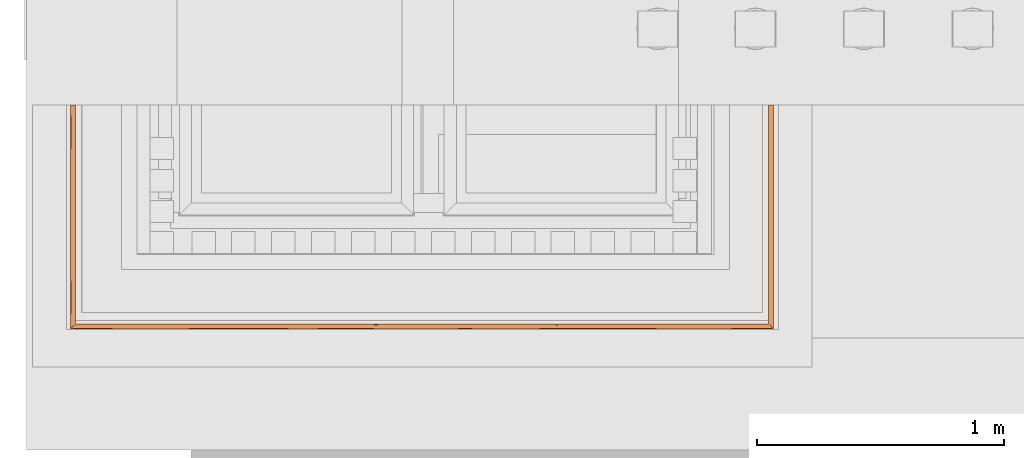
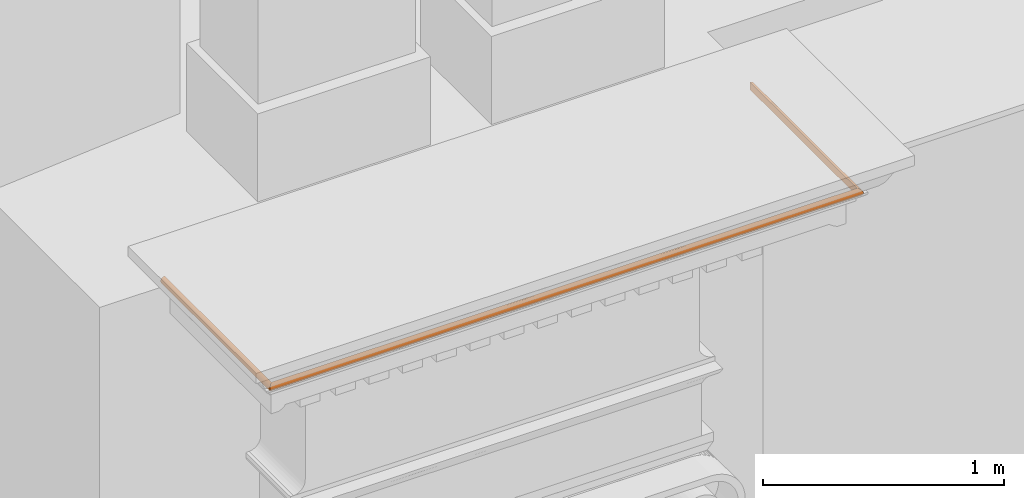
# One storey, part 23 of 44: 1 proxy.
"""IFC2X3 building model written with IfcOpenShell, lengths in metres."""

import ifcopenshell
import ifcopenshell.guid

model = None  # the IFC model being written
_history = None  # IfcOwnerHistory: only IFC2X3 demands one
_inside = {}  # id of a spatial element -> (the spatial element, [elements in it])
_under = {}  # id of a project, library or spatial element -> (it, [spatial elements below it])
_declared = {}  # id of a project -> (the project, [libraries it declares])
_typed = {}  # id of a type object -> (the type object, [elements of that type])
_made_of = {}  # id of a material, layer set ... -> (it, [elements and type objects made of it])


def new_model(schema):
    """Start an empty IFC model of exactly this schema.

    Asked for "IFC4X3", IfcOpenShell would pick the latest addendum, in which some entities
    have other attributes; the version numbers below select the first issue.
    IFC2X3 requires an IfcOwnerHistory on every rooted entity: one is made here for all.
    """
    global model, _history
    if schema == "IFC4X3":
        model = ifcopenshell.file(schema_version=(4, 3, 0, 0))
    else:
        model = ifcopenshell.file(schema=schema)
    _inside.clear()
    _under.clear()
    _declared.clear()
    _typed.clear()
    _made_of.clear()
    _history = None
    if model.schema == "IFC2X3":
        org = make("IfcOrganization", Name="unknown")
        user = make(
            "IfcPersonAndOrganization",
            ThePerson=make("IfcPerson", FamilyName="unknown"),
            TheOrganization=org,
        )
        app = make(
            "IfcApplication",
            ApplicationDeveloper=org,
            Version="unknown",
            ApplicationFullName="unknown",
            ApplicationIdentifier="unknown",
        )
        _history = make(
            "IfcOwnerHistory",
            OwningUser=user,
            OwningApplication=app,
            ChangeAction="ADDED",
            CreationDate=0,
        )
    return model


def make(cls, **values):
    """One entity of the class cls with the attributes given. An attribute that is None is left unset."""
    return model.create_entity(
        cls, **{name: value for name, value in values.items() if value is not None}
    )


def entity(cls, *values):
    """Any entity or typed value of the class cls, its attributes in the order of the schema. None: left unset."""
    e = model.create_entity(cls)
    for i, value in enumerate(values):
        if value is not None:
            e[i] = value
    return e


def rooted(cls, **values):
    """An entity with a GlobalId (a new one), such as an element, a storey or a relation."""
    return make(cls, GlobalId=ifcopenshell.guid.new(), OwnerHistory=_history, **values)


def si_unit(unit_type, name, prefix=None):
    """IfcSIUnit, for example si_unit("LENGTHUNIT", "METRE", prefix="MILLI")."""
    return make("IfcSIUnit", UnitType=unit_type, Prefix=prefix, Name=name)


def converted_unit(unit_type, name, factor, base, dimensions=None, offset=None):
    """IfcConversionBasedUnit, such as the inch: factor (a typed value) times the base unit."""
    return make(
        "IfcConversionBasedUnit"
        if offset is None
        else "IfcConversionBasedUnitWithOffset",
        ConversionOffset=offset,
        Dimensions=None
        if dimensions is None
        else entity("IfcDimensionalExponents", *dimensions),
        UnitType=unit_type,
        Name=name,
        ConversionFactor=make(
            "IfcMeasureWithUnit", ValueComponent=factor, UnitComponent=base
        ),
    )


def derived_unit(unit_type, elements):
    """IfcDerivedUnit: a product of units, each with its exponent."""
    return make(
        "IfcDerivedUnit",
        Elements=[
            make("IfcDerivedUnitElement", Unit=unit, Exponent=power)
            for unit, power in elements
        ],
        UnitType=unit_type,
    )


def assignment(units):
    """IfcUnitAssignment: the units of a project."""
    return None if units is None else make("IfcUnitAssignment", Units=units)


def point(xyz):
    """IfcCartesianPoint."""
    return None if xyz is None else make("IfcCartesianPoint", Coordinates=xyz)


def direction(xyz):
    """IfcDirection."""
    return None if xyz is None else make("IfcDirection", DirectionRatios=xyz)


def frame(location, z_axis=None, x_axis=None):
    """IfcAxis2Placement3D, a coordinate frame: its origin and axes. An axis left out is left unset."""
    return make(
        "IfcAxis2Placement3D",
        Location=point(location),
        Axis=direction(z_axis),
        RefDirection=direction(x_axis),
    )


def origin():
    """The frame at (0, 0, 0) with its axes left unset."""
    return frame((0.0, 0.0, 0.0))


def place(relative_to, where):
    """IfcLocalPlacement: puts the frame where relative to a parent placement (None: the world)."""
    return make(
        "IfcLocalPlacement", PlacementRelTo=relative_to, RelativePlacement=where
    )


def context(
    kind, dimensions, precision=None, world=None, true_north=None, identifier=None
):
    """IfcGeometricRepresentationContext, for example the 3D "Model" context."""
    return make(
        "IfcGeometricRepresentationContext",
        ContextIdentifier=identifier,
        ContextType=kind,
        CoordinateSpaceDimension=dimensions,
        Precision=precision,
        WorldCoordinateSystem=world,
        TrueNorth=true_north,
    )


def subcontext(parent, identifier, kind, view, scale=None):
    """IfcGeometricRepresentationSubContext, for example "Body" below "Model"."""
    return make(
        "IfcGeometricRepresentationSubContext",
        ContextIdentifier=identifier,
        ContextType=kind,
        ParentContext=parent,
        TargetScale=scale,
        TargetView=view,
    )


def project(units=None, contexts=None):
    """IfcProject with its units and contexts."""
    return rooted(
        "IfcProject",
        Name="project",
        RepresentationContexts=contexts,
        UnitsInContext=assignment(units),
    )


def spatial(cls, under=None, at=None, **own):
    """A site, building, storey or space (cls), placed at a placement, below another one or the project."""
    s = rooted(cls, ObjectPlacement=at, **own)
    if under is not None:
        _under.setdefault(under.id(), (under, []))[1].append(s)
    return s


def faces_of(points, faces, orient=None, outer=None):
    """IfcFace entities. A face is a list of loops; a loop is a list of indices into points, from 0.

    orient and outer hold one flag for each loop. By default every Orientation is true, the
    first loop of a face is its IfcFaceOuterBound and the others are IfcFaceBound.
    """
    made = []
    for i, loops in enumerate(faces):
        bounds = []
        for j, loop in enumerate(loops):
            is_outer = j == 0 if outer is None else outer[i][j]
            bounds.append(
                make(
                    "IfcFaceOuterBound" if is_outer else "IfcFaceBound",
                    Bound=make("IfcPolyLoop", Polygon=[points[k] for k in loop]),
                    Orientation=True if orient is None else orient[i][j],
                )
            )
        made.append(make("IfcFace", Bounds=bounds))
    return made


def faceted_brep(points, faces, orient=None, outer=None, voids=None):
    """IfcFacetedBrep: a solid bounded by flat faces; with voids (closed shells), ...WithVoids."""
    shared = [point(p) for p in points]
    hull = make("IfcClosedShell", CfsFaces=faces_of(shared, faces, orient, outer))
    if voids is None:
        return make("IfcFacetedBrep", Outer=hull)
    return make(
        "IfcFacetedBrepWithVoids",
        Outer=hull,
        Voids=[
            make(cls, CfsFaces=faces_of(shared, fs, o, b)) for cls, fs, o, b in voids
        ],
    )


def shape(context_of_items, identifier, shape_type, items):
    """IfcShapeRepresentation: the items that make up one representation, for example the "Body"."""
    return make(
        "IfcShapeRepresentation",
        ContextOfItems=context_of_items,
        RepresentationIdentifier=identifier,
        RepresentationType=shape_type,
        Items=items,
    )


def material(Name=None, Category=None):
    """IfcMaterial."""
    return make("IfcMaterial", Name=Name, Category=Category)


def made_of(thing, what):
    """Note that an element or type object is made of a material, layer set ...; save() writes the relation."""
    if what is not None:
        _made_of.setdefault(what.id(), (what, []))[1].append(thing)
    return thing


def element(
    cls,
    number,
    at=None,
    inside=None,
    cuts=None,
    type_object=None,
    material=None,
    context=None,
    identifier="Body",
    shape_type=None,
    held_by="IfcProductDefinitionShape",
    body=None,
    shapes=None,
    **own,
):
    """One element of the class cls, such as IfcWall. Its Tag is "e" and its number.

    at: its placement. inside: the storey or other place that contains it. cuts: it is an
    opening in that element (IfcRelVoidsElement). A single representation is given by context,
    identifier, shape_type and body (its items); several are given by shapes. held_by: the class
    of the entity that holds the representations. save() writes the other relations.
    """
    e = rooted(cls, Tag="e%d" % number, ObjectPlacement=at, **own)
    if body is not None:
        shapes = [shape(context, identifier, shape_type, body)]
    if shapes is not None:
        e.Representation = make(held_by, Representations=shapes)
    if inside is not None:
        _inside.setdefault(inside.id(), (inside, []))[1].append(e)
    if cuts is not None:
        rooted(
            "IfcRelVoidsElement", RelatingBuildingElement=cuts, RelatedOpeningElement=e
        )
    if type_object is not None:
        _typed.setdefault(type_object.id(), (type_object, []))[1].append(e)
    return made_of(e, material)


def aggregate(whole, parts):
    """IfcRelAggregates: a whole, such as a stair, and the parts it consists of."""
    return rooted("IfcRelAggregates", RelatingObject=whole, RelatedObjects=parts)


def save(model, path):
    """Write the relations noted so far, then the file.

    IfcRelAggregates (storeys below a building ...), IfcRelContainedInSpatialStructure (elements
    in a storey), IfcRelDefinesByType, IfcRelAssociatesMaterial and IfcRelDeclares: one each for
    every whole, place, type object, material and project.
    """
    for whole, parts in _under.values():
        aggregate(whole, parts)
    for where, things in _inside.values():
        rooted(
            "IfcRelContainedInSpatialStructure",
            RelatedElements=things,
            RelatingStructure=where,
        )
    for kind, things in _typed.values():
        rooted("IfcRelDefinesByType", RelatedObjects=things, RelatingType=kind)
    for what, things in _made_of.values():
        rooted("IfcRelAssociatesMaterial", RelatedObjects=things, RelatingMaterial=what)
    for by, libraries in _declared.values():
        rooted("IfcRelDeclares", RelatingContext=by, RelatedDefinitions=libraries)
    model.write(path)


model = new_model("IFC2X3")

# Units and contexts
model_context = context("Model", 3, precision=1e-05, world=origin(), true_north=direction((6.12303176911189e-17, 1.0)))
body_context = subcontext(model_context, "Body", "Model", "MODEL_VIEW")
ifc_project = project(units=[si_unit("LENGTHUNIT", "METRE"), si_unit("AREAUNIT", "SQUARE_METRE"), si_unit("VOLUMEUNIT", "CUBIC_METRE"), converted_unit("PLANEANGLEUNIT", "DEGREE", entity("IfcRatioMeasure", 0.0174532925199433), si_unit("PLANEANGLEUNIT", "RADIAN"), dimensions=[0, 0, 0, 0, 0, 0, 0]), si_unit("MASSUNIT", "GRAM", prefix="KILO"), derived_unit("MASSDENSITYUNIT", [(si_unit("MASSUNIT", "GRAM", prefix="KILO"), 1), (si_unit("LENGTHUNIT", "METRE"), -3)]), si_unit("TIMEUNIT", "SECOND"), si_unit("FREQUENCYUNIT", "HERTZ"), si_unit("THERMODYNAMICTEMPERATUREUNIT", "DEGREE_CELSIUS"), derived_unit("THERMALTRANSMITTANCEUNIT", [(si_unit("MASSUNIT", "GRAM", prefix="KILO"), 1), (si_unit("THERMODYNAMICTEMPERATUREUNIT", "KELVIN"), -1), (si_unit("TIMEUNIT", "SECOND"), -3)]), derived_unit("VOLUMETRICFLOWRATEUNIT", [(si_unit("LENGTHUNIT", "METRE"), 3), (si_unit("TIMEUNIT", "SECOND"), -1)]), si_unit("ELECTRICCURRENTUNIT", "AMPERE"), si_unit("ELECTRICVOLTAGEUNIT", "VOLT"), si_unit("POWERUNIT", "WATT"), si_unit("FORCEUNIT", "NEWTON", prefix="KILO"), si_unit("ILLUMINANCEUNIT", "LUX"), si_unit("LUMINOUSFLUXUNIT", "LUMEN"), si_unit("LUMINOUSINTENSITYUNIT", "CANDELA"), derived_unit("USERDEFINED", [(si_unit("MASSUNIT", "GRAM", prefix="KILO"), -1), (si_unit("LENGTHUNIT", "METRE"), -2), (si_unit("TIMEUNIT", "SECOND"), 3), (si_unit("LUMINOUSFLUXUNIT", "LUMEN"), 1)]), derived_unit("LINEARVELOCITYUNIT", [(si_unit("LENGTHUNIT", "METRE"), 1), (si_unit("TIMEUNIT", "SECOND"), -1)]), si_unit("PRESSUREUNIT", "PASCAL"), derived_unit("USERDEFINED", [(si_unit("LENGTHUNIT", "METRE"), -2), (si_unit("MASSUNIT", "GRAM", prefix="KILO"), 1), (si_unit("TIMEUNIT", "SECOND"), -2)])], contexts=[model_context])

# Site, building, storey
site_placement = place(None, origin())
site = spatial("IfcSite", under=ifc_project, at=site_placement, Name="Default", CompositionType="ELEMENT")
building_placement = place(site_placement, origin())
building = spatial("IfcBuilding", under=site, at=building_placement, CompositionType="ELEMENT")
storey_placement = place(building_placement, origin())
storey = spatial("IfcBuildingStorey", under=building, at=storey_placement, Name="Livello 1", CompositionType="ELEMENT", Elevation=0.0)

# Proxy
ifc_material = material(Name="Piperno")
proxy_placement = place(storey_placement, frame((-11.9444697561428, 0.355124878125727, 23.0438415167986)))
element("IfcBuildingElementProxy", 1, at=proxy_placement, inside=storey, material=ifc_material, Name="Stratigrafia", context=body_context, shape_type="Brep", body=[
    faceted_brep([(2.84335871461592, 0.908247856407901, 0.0315863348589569), (2.84565631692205, 0.908247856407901, 0.0274250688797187), (2.84684265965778, 0.908247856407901, 0.0228220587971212), (2.84684265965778, 0.908247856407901, 0.0180686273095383), (2.84565631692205, 0.908247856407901, 0.0134656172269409), (2.84335871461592, 0.908247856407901, 0.0093043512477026), (2.84009526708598, 0.908247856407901, 0.00584819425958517), (2.83607251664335, 0.908247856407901, 0.00331588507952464), (2.83154506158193, 0.908247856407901, 0.00186769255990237), (2.8267994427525, 0.908247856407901, 0.0015952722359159), (2.8267994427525, 0.908247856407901, 0.0392954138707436), (2.83154506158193, 0.908247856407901, 0.0390229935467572), (2.83607251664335, 0.908247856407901, 0.0375748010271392), (2.84009526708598, 0.908247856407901, 0.0350424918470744), (0.00278161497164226, 0.908247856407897, 0.0274250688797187), (0.00507921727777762, 0.908247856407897, 0.0315863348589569), (0.00834266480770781, 0.908247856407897, 0.0350424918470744), (0.0123654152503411, 0.908247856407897, 0.0375748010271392), (0.0168928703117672, 0.908247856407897, 0.0390229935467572), (0.0216384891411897, 0.908247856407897, 0.0392954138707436), (0.0216384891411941, 0.908247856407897, 0.0015952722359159), (0.0168928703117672, 0.908247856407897, 0.00186769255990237), (0.0123654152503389, 0.908247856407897, 0.00331588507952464), (0.00834266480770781, 0.908247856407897, 0.00584819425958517), (0.00507921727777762, 0.908247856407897, 0.0093043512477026), (0.0027816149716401, 0.908247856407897, 0.0134656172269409), (0.0015952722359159, 0.908247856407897, 0.0180686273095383), (0.0015952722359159, 0.908247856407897, 0.0228220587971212), (2.83822898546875, 0.214377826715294, 0.0363944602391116), (2.83607251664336, 0.0123654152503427, 0.0375748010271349), (2.84009526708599, 0.00834266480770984, 0.0350424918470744), (2.84129866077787, 0.458798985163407, 0.0339639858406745), (2.84183610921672, 0.644526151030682, 0.0334174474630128), (2.83816384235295, 0.467085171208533, 0.0364356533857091), (2.8267994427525, 0.604692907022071, 0.0015952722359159), (2.83054907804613, 0.530011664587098, 0.00171025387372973), (2.83001274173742, 0.366464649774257, 0.00164786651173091), (2.84335871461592, 0.00507921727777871, 0.0315863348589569), (2.84189219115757, 0.27386888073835, 0.0333577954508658), (2.84640221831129, 0.26925326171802, 0.025132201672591), (2.84466010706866, 0.207742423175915, 0.0295397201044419), (2.84565631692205, 0.00278161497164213, 0.0274250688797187), (2.83396197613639, 0.280257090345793, 0.0384071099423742), (2.84503240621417, 0.455215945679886, 0.0120645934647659), (2.84640733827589, 0.454921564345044, 0.0157785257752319), (2.8446667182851, 0.271444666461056, 0.0113630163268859), (2.84335871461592, 0.00507921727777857, 0.00930435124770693), (2.84009526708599, 0.0083426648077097, 0.00584819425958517), (2.84187896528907, 0.210753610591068, 0.00751877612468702), (2.83154506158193, 0.0168928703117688, 0.0018676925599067), (2.83031173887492, 0.201549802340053, 0.00168072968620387), (2.83396214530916, 0.280675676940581, 0.00248363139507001), (2.84684265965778, 0.00159527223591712, 0.0228220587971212), (2.84699273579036, 0.205349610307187, 0.0204453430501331), (2.8267994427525, 0.021638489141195, 0.0392954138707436), (2.83154506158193, 0.0168928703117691, 0.0390229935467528), (2.83030951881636, 0.201466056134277, 0.039210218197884), (2.8267994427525, 0.301137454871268, 0.0392954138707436), (2.83063053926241, 0.452914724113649, 0.0391695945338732), (2.84565631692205, 0.00278161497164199, 0.0134656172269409), (2.84183610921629, 0.702798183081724, 0.0074732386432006), (2.83816384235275, 0.712887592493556, 0.00445503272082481), (2.83607251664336, 0.012365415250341, 0.00331588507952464), (2.83816384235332, 0.704220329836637, 0.0364356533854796), (2.8338545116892, 0.644526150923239, 0.0384418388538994), (2.84699273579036, 0.712887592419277, 0.0204453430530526), (2.84639481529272, 0.702798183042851, 0.0157296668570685), (2.84463889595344, 0.704220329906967, 0.0295782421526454), (2.84639481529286, 0.642111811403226, 0.0251610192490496), (2.84468577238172, 0.45551473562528, 0.0294928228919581), (2.84640020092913, 0.196313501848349, 0.0157506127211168), (2.84684265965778, 0.00159527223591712, 0.0180686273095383), (2.84696382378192, 0.456343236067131, 0.0214902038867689), (2.84621722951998, 0.455561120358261, 0.0258030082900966), (2.83830664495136, 0.458295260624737, 0.00454582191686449), (2.84254895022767, 0.453619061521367, 0.00827237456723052), (2.83822596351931, 0.204901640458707, 0.00449430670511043), (2.8267994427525, 0.301137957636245, 0.0015952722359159), (2.8267994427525, 0.0216384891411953, 0.0015952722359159), (2.83391422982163, 0.458791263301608, 0.00246805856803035), (2.83016512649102, 0.721817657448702, 0.00166401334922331), (2.83385451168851, 0.636898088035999, 0.00244884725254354), (2.84463889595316, 0.638410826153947, 0.0113124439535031), (2.8267994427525, 0.604692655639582, 0.0392954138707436), (2.83012292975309, 0.723306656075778, 0.0392312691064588), (2.83464434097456, 0.462931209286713, 0.0381698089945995), (2.63756957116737, 0.0102100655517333, 0.00449551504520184), (2.57476271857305, 0.0144786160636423, 0.00248270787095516), (0.0015952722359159, 0.0015952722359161, 0.0228220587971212), (0.145231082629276, 0.0014451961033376, 0.0204453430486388), (0.222629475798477, 0.00203700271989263, 0.0251372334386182), (0.0216384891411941, 0.0216384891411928, 0.0392954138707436), (0.0168928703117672, 0.0168928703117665, 0.0390229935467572), (0.203583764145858, 0.0183182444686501, 0.0392316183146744), (2.64900331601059, 0.00377868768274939, 0.0295412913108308), (2.62580845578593, 0.00203700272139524, 0.0251372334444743), (2.38227488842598, 0.00192473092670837, 0.0246751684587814), (2.52067139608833, 0.00144519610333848, 0.0204453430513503), (0.609781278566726, 0.00689255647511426, 0.00717209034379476), (0.443456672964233, 0.01013600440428, 0.00454279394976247), (0.733282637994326, 0.0106616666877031, 0.00421751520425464), (0.466163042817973, 0.00192473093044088, 0.0162155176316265), (0.32776653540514, 0.00144519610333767, 0.0204453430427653), (0.222629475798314, 0.00203700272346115, 0.0157534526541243), (0.0015952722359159, 0.00159527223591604, 0.0180686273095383), (0.775211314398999, 0.00278265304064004, 0.0134630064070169), (0.690017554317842, 0.00182479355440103, 0.0166769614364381), (0.595093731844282, 0.0027395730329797, 0.0135723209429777), (0.403758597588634, 0.0176730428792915, 0.0391509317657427), (0.628749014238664, 0.0216384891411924, 0.0392954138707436), (0.325193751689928, 0.0216384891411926, 0.0392954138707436), (0.00278161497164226, 0.00278161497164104, 0.0274250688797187), (0.00507921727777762, 0.00507921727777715, 0.0315863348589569), (0.199434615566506, 0.00377868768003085, 0.0295412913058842), (0.265342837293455, 0.00654752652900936, 0.0333597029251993), (0.00834266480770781, 0.00834266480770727, 0.0350424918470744), (2.23865665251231, 0.00689255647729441, 0.0337185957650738), (2.40498125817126, 0.0101360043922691, 0.0363478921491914), (2.11515529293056, 0.0106616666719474, 0.0366731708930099), (0.199434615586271, 0.00377868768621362, 0.0113493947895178), (0.00278161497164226, 0.00278161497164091, 0.0134656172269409), (0.496645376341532, 0.00650199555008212, 0.0333109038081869), (0.44085518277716, 0.0101368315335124, 0.0363484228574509), (2.57372725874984, 0.0144781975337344, 0.0384078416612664), (2.64467049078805, 0.0183129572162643, 0.0392310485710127), (2.4440037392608, 0.0176991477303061, 0.0391546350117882), (0.775425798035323, 0.0174017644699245, 0.0391102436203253), (0.573603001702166, 0.0153889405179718, 0.0386798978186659), (1.79990849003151, 0.00150446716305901, 0.0219407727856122), (1.64269787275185, 0.00163670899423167, 0.0177619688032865), (1.91098158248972, 0.00182272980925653, 0.0166871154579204), (1.64512055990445, 0.0171037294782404, 0.0390608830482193), (1.46941676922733, 0.0165294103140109, 0.0389518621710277), (1.54037072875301, 0.0132319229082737, 0.0379521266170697), (0.210868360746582, 0.0102100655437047, 0.0363951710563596), (0.0123654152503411, 0.012365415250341, 0.0375748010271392), (0.273675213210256, 0.0144786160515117, 0.0384079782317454), (2.40758274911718, 0.0101368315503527, 0.00454226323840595), (2.58309509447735, 0.00654752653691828, 0.00753098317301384), (2.35179255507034, 0.00650199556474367, 0.00757978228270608), (2.63618031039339, 0.0102096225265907, 0.0363948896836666), (0.434319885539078, 0.00375434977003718, 0.0294968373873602), (0.467738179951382, 0.00192823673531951, 0.0246904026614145), (0.735975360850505, 0.00298732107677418, 0.0279218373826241), (0.955175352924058, 0.00181743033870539, 0.024177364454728), (1.02942023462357, 0.00151455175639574, 0.018827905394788), (1.21402024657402, 0.00162121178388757, 0.0230183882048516), (0.212257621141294, 0.0102096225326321, 0.00449579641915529), (0.274710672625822, 0.0144781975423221, 0.00248284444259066), (0.203767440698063, 0.0183129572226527, 0.00165963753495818), (0.404434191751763, 0.0176991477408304, 0.00173605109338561), (2.64900331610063, 0.00377868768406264, 0.0113493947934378), (2.70320684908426, 0.00144519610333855, 0.0204453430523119), (2.62580845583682, 0.00203700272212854, 0.0157534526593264), (0.84171011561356, 0.00152507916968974, 0.018709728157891), (1.27400284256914, 0.0115043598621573, 0.00374372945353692), (1.08408246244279, 0.0134028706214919, 0.00287012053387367), (1.28353331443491, 0.0164668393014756, 0.00195181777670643), (2.19232649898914, 0.00186933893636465, 0.0244263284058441), (2.17559801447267, 0.00144519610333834, 0.0204453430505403), (2.34813470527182, 0.00145578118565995, 0.0210777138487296), (2.58182587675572, 0.00654726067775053, 0.0333594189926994), (0.266612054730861, 0.00654726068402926, 0.00753126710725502), (0.00834266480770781, 0.00834266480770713, 0.00584819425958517), (0.00507921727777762, 0.00507921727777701, 0.0093043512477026), (1.12066304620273, 0.021638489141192, 0.0392954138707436), (0.997684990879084, 0.0179973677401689, 0.0391943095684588), (1.29179829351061, 0.0163362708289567, 0.0389110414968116), (1.15027194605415, 0.00293084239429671, 0.0277893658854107), (1.35466625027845, 0.00474557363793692, 0.0311143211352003), (1.10025454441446, 0.00598031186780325, 0.0327259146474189), (2.52324418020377, 0.0216384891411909, 0.0392954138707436), (1.72777085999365, 0.0216384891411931, 0.0015952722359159), (1.8507529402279, 0.0179973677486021, 0.00169637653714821), (1.55663963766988, 0.0163362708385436, 0.00197964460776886), (0.949636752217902, 0.00210012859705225, 0.0155137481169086), (0.0123654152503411, 0.0123654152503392, 0.00331588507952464), (2.07322661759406, 0.00278265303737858, 0.0274276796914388), (2.24590271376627, 0.00291481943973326, 0.0277512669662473), (2.07301213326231, 0.0174017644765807, 0.00178044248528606), (2.21968705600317, 0.0216384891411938, 0.0015952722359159), (2.27483493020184, 0.0153889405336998, 0.00221078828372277), (2.44467933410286, 0.017673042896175, 0.00173975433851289), (2.5232410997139, 0.0216384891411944, 0.0015952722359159), (2.64485416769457, 0.0183182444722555, 0.00165906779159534), (2.41411804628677, 0.00375434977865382, 0.0113938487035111), (2.38069975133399, 0.00192823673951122, 0.0162002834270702), (2.11246257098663, 0.00298732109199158, 0.012968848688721), (2.27437678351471, 0.0153976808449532, 0.0386822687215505), (0.0168928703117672, 0.0168928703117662, 0.00186769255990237), (0.574061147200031, 0.0153976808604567, 0.00220841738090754), (0.0216384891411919, 0.0216384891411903, 0.0015952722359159), (0.325192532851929, 0.0216384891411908, 0.00159527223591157), (2.40632271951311, 0.00590995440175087, 0.0326431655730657), (2.39334385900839, 0.00375220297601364, 0.0294929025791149), (0.442115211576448, 0.00590995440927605, 0.00824752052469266), (0.455094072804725, 0.0037522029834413, 0.0113977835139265), (2.21968826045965, 0.0216384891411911, 0.0392954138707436), (0.628750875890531, 0.0216384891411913, 0.0015952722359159), (0.660247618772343, 0.00725728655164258, 0.0340782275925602), (0.997684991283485, 0.0136581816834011, 0.0381192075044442), (0.944791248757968, 0.00391137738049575, 0.0297788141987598), (1.39366594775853, 0.00734109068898, 0.0341581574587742), (1.59298093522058, 0.00724537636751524, 0.0340667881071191), (1.52384505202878, 0.00969429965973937, 0.0360556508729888), (2.18819031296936, 0.00725728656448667, 0.00681245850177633), (1.85075294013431, 0.0136581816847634, 0.00277147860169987), (1.42153819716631, 0.0021795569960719, 0.015228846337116), (1.42421896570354, 0.00144519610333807, 0.0204453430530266), (1.23550369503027, 0.00152685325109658, 0.0186906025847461), (1.19280459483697, 0.00728233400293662, 0.00678846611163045), (1.08074890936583, 0.0098312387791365, 0.00474252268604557), (1.91613299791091, 0.0216384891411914, 0.0392954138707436), (2.00993849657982, 0.0153707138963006, 0.0386749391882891), (1.83603718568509, 0.0169994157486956, 0.0390424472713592), (1.61257773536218, 0.0216384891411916, 0.0392954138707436), (1.89203566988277, 0.0103600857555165, 0.0364894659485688), (1.76435546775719, 0.0134028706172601, 0.0380205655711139), (1.9822695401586, 0.0064223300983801, 0.0332246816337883), (0.932304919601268, 0.0216384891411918, 0.0015952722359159), (0.838499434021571, 0.0153707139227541, 0.0022157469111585), (1.07201888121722, 0.0179604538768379, 0.00170102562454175), (1.23585896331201, 0.0216384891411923, 0.0015952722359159), (0.917061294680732, 0.0116210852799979, 0.00368249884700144), (0.866168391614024, 0.00642233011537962, 0.00766600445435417), (0.720189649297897, 0.0107250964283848, 0.0367108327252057), (0.938275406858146, 0.0095507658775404, 0.0359567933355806), (0.874706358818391, 0.0216384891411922, 0.0392954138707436), (1.91016252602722, 0.00955076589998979, 0.00493389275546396), (2.12824828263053, 0.0107250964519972, 0.0041798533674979), (1.97372680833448, 0.0216384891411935, 0.0015952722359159), (0.679736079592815, 0.00445375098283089, 0.0102159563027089), (0.500303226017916, 0.00145578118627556, 0.0198129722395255), (1.12770429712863, 0.00206977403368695, 0.0156274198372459), (0.989754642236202, 0.00339597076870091, 0.0120839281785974), (1.21505934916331, 0.00322240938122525, 0.0124452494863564), (1.1150262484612, 0.00491615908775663, 0.00953120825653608), (1.28622775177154, 0.0052369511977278, 0.0090914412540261), (1.44429130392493, 0.00438724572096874, 0.0103199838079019), (1.69091020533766, 0.00681204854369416, 0.00725415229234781), (1.66941425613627, 0.00315255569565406, 0.0125964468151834), (1.38840431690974, 0.00244126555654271, 0.0264991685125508), (1.59998179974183, 0.00348248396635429, 0.0289798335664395), (0.82223981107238, 0.00643143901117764, 0.0332345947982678), (1.89218413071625, 0.00332368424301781, 0.0122320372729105), (1.99026631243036, 0.00170928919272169, 0.0235933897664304), (1.79258400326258, 0.00735012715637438, 0.0341667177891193), (1.80049937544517, 0.00463251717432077, 0.0309471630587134), (0.657662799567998, 0.0048981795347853, 0.0313340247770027), (0.657707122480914, 0.00187018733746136, 0.0244302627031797), (0.672839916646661, 0.0014451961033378, 0.0204453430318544), (2.14266022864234, 0.00459318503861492, 0.0308880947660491), (1.79409940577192, 0.00249269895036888, 0.0266491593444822), (1.59634544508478, 0.00184958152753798, 0.0243335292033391), (2.0261981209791, 0.00643143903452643, 0.00765609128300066), (2.19077513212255, 0.00489817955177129, 0.00955666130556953), (2.19073080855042, 0.00187018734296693, 0.0164604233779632), (1.94627393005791, 0.0014473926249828, 0.0201572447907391), (1.68707490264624, 0.0100573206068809, 0.0362971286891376), (0.731073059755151, 0.0140043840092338, 0.0382462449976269), (2.117364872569, 0.0140043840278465, 0.00264444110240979), (1.14808094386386, 0.0106407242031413, 0.036660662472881), (1.36662065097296, 0.0105567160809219, 0.0366101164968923), (1.36662039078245, 0.0216384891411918, 0.0392954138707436), (1.70035698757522, 0.0106407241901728, 0.00423002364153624), (1.48181727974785, 0.0105567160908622, 0.00428056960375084), (1.48181491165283, 0.0216384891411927, 0.0015952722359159), (1.64459732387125, 0.00145781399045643, 0.0211357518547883), (1.97116033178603, 0.00412934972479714, 0.0301524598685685), (1.44230818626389, 0.00715102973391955, 0.0069152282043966), (1.02953721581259, 0.00684097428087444, 0.00722455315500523), (1.85158289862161, 0.00539159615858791, 0.00888859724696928), (0.00204311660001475, 0.703138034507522, 0.0251610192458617), (0.0144751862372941, 0.282161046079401, 0.0384068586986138), (0.0181182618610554, 0.201848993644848, 0.0392090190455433), (0.0178758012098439, 0.410799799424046, 0.0391787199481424), (0.0066018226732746, 0.646390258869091, 0.0334174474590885), (0.0037990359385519, 0.712904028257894, 0.0295782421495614), (0.00416344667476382, 0.458183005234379, 0.0106815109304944), (0.0020431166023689, 0.455514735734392, 0.0157296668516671), (0.00379903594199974, 0.646374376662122, 0.0113124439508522), (0.0102740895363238, 0.704638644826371, 0.036435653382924), (0.0102740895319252, 0.471731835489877, 0.0364356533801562), (0.0145834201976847, 0.646390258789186, 0.0384418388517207), (0.00655901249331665, 0.210534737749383, 0.00751872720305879), (0.00660182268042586, 0.471692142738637, 0.00747323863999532), (0.0101880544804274, 0.279921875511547, 0.00450951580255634), (0.00654612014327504, 0.2720573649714, 0.0333582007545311), (0.00610145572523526, 0.459565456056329, 0.0328661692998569), (0.0037990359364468, 0.456663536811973, 0.0295782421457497), (0.00204311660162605, 0.704635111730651, 0.0157296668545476), (0.0014451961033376, 0.63984346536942, 0.0204453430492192), (0.0216384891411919, 0.301136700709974, 0.0392954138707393), (0.0183249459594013, 0.723657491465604, 0.0392323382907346), (0.00660182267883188, 0.708474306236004, 0.00747323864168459), (0.0102740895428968, 0.665513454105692, 0.00445503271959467), (0.010209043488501, 0.214073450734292, 0.0363945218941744), (0.0183675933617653, 0.192450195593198, 0.00165382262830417), (0.00203773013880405, 0.196343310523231, 0.0157506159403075), (0.00377785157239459, 0.20748488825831, 0.0295397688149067), (0.00203563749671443, 0.272006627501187, 0.0251319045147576), (0.0145004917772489, 0.219564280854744, 0.00247558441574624), (0.0145834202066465, 0.731058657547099, 0.00244884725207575), (0.0181702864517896, 0.68058129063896, 0.00167558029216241), (0.0145834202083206, 0.521096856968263, 0.00244884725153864), (0.0014451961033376, 0.206002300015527, 0.0204453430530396), (0.0021899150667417, 0.469458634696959, 0.025697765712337), (0.00148461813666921, 0.422922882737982, 0.0216652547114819), (0.0109090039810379, 0.472250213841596, 0.00407253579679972), (0.00377131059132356, 0.270509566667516, 0.0113628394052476), (0.0174616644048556, 0.569310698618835, 0.0391195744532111), (0.0142862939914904, 0.464454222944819, 0.0383440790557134), (0.0216384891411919, 0.756464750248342, 0.0015952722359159), (0.0184370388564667, 0.49241986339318, 0.00164666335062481), (0.0216384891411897, 0.604693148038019, 0.0015952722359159), (0.0216384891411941, 0.30113843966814, 0.0015952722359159), (0.0216384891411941, 0.604692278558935, 0.0392954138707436)], [[[0, 1, 2, 3, 4, 5, 6, 7, 8, 9, 10, 11, 12, 13]], [[14, 15, 16, 17, 18, 19, 20, 21, 22, 23, 24, 25, 26, 27]], [[28, 29, 30]], [[31, 32, 33]], [[34, 35, 36]], [[30, 37, 38]], [[39, 40, 41]], [[33, 42, 28]], [[40, 37, 41]], [[43, 44, 45]], [[32, 0, 13]], [[46, 47, 48]], [[49, 50, 51]], [[39, 52, 53]], [[54, 55, 56]], [[57, 56, 58]], [[41, 52, 39]], [[55, 29, 42]], [[59, 46, 45]], [[60, 61, 6]], [[62, 49, 51]], [[63, 13, 12]], [[63, 12, 64]], [[65, 66, 3]], [[67, 0, 32]], [[0, 67, 1]], [[68, 2, 1]], [[67, 69, 68]], [[70, 53, 71]], [[39, 53, 72]], [[69, 73, 68]], [[48, 74, 75]], [[76, 48, 47]], [[53, 52, 71]], [[77, 50, 78]], [[51, 36, 79]], [[80, 8, 81]], [[60, 82, 75]], [[44, 65, 72]], [[81, 8, 7]], [[66, 82, 4]], [[66, 4, 3]], [[11, 64, 12]], [[70, 44, 53]], [[32, 63, 33]], [[4, 82, 5]], [[35, 34, 80]], [[7, 6, 61]], [[8, 80, 9]], [[10, 83, 84]], [[74, 48, 76]], [[29, 28, 42]], [[5, 60, 6]], [[40, 69, 38]], [[31, 69, 32]], [[5, 82, 60]], [[85, 33, 64]], [[56, 55, 42]], [[11, 84, 64]], [[58, 83, 57]], [[3, 2, 65]], [[44, 82, 66]], [[82, 43, 75]], [[61, 74, 81]], [[48, 45, 46]], [[74, 60, 75]], [[69, 40, 39]], [[38, 37, 40]], [[71, 59, 70]], [[72, 68, 73]], [[53, 44, 72]], [[65, 44, 66]], [[62, 76, 47]], [[75, 45, 48]], [[69, 67, 32]], [[68, 1, 67]], [[30, 38, 28]], [[28, 38, 31]], [[33, 63, 64]], [[32, 13, 63]], [[2, 68, 65]], [[72, 65, 68]], [[74, 61, 60]], [[81, 7, 61]], [[59, 45, 70]], [[44, 70, 45]], [[62, 51, 76]], [[74, 76, 51]], [[35, 80, 81]], [[9, 80, 34]], [[79, 35, 81]], [[51, 50, 36]], [[81, 74, 79]], [[74, 51, 79]], [[69, 39, 73]], [[72, 73, 39]], [[75, 43, 45]], [[82, 44, 43]], [[78, 50, 49]], [[36, 50, 77]], [[34, 36, 77]], [[36, 35, 79]], [[28, 31, 33]], [[69, 31, 38]], [[85, 58, 42]], [[84, 58, 64]], [[58, 56, 42]], [[54, 56, 57]], [[10, 84, 11]], [[58, 84, 83]], [[58, 85, 64]], [[42, 33, 85]], [[9, 34, 77, 78, 54, 57, 83, 10]], [[62, 86, 87]], [[88, 89, 90]], [[91, 92, 93]], [[86, 62, 47]], [[41, 94, 95]], [[96, 97, 95]], [[98, 99, 100]], [[101, 102, 103]], [[88, 104, 89]], [[105, 106, 107]], [[108, 109, 110]], [[111, 88, 90]], [[112, 111, 113]], [[114, 115, 112]], [[116, 117, 118]], [[119, 103, 120]], [[114, 121, 122]], [[123, 124, 125]], [[126, 109, 127]], [[128, 129, 130]], [[131, 132, 133]], [[134, 135, 115]], [[136, 92, 135]], [[137, 138, 139]], [[30, 29, 140]], [[141, 142, 143]], [[144, 145, 146]], [[99, 147, 148]], [[117, 140, 123]], [[148, 149, 150]], [[46, 59, 151]], [[95, 97, 152]], [[153, 59, 71]], [[103, 102, 89]], [[106, 105, 154]], [[155, 156, 157]], [[158, 159, 160]], [[46, 138, 47]], [[140, 161, 30]], [[162, 163, 147]], [[162, 164, 163]], [[165, 166, 167]], [[59, 153, 151]], [[152, 71, 52]], [[111, 90, 113]], [[87, 49, 62]], [[168, 169, 170]], [[161, 37, 30]], [[54, 171, 124]], [[172, 173, 174]], [[105, 175, 154]], [[163, 176, 147]], [[177, 158, 178]], [[179, 180, 181]], [[182, 180, 183]], [[78, 49, 184]], [[71, 152, 153]], [[185, 186, 187]], [[29, 55, 123]], [[188, 117, 123]], [[176, 189, 148]], [[190, 99, 148]], [[104, 120, 103]], [[90, 142, 141]], [[52, 41, 95]], [[153, 186, 185]], [[135, 134, 136]], [[108, 93, 136]], [[182, 184, 87]], [[191, 192, 149]], [[121, 114, 141]], [[134, 114, 122]], [[139, 138, 185]], [[86, 138, 137]], [[193, 117, 116]], [[194, 95, 94]], [[195, 99, 98]], [[196, 103, 119]], [[136, 122, 127]], [[93, 92, 136]], [[87, 137, 181]], [[184, 49, 87]], [[55, 124, 123]], [[125, 197, 188]], [[189, 149, 148]], [[150, 198, 190]], [[120, 164, 119]], [[101, 103, 196]], [[142, 90, 102]], [[141, 114, 113]], [[41, 37, 94]], [[96, 95, 194]], [[186, 153, 97]], [[185, 138, 151]], [[122, 121, 199]], [[167, 166, 200]], [[200, 166, 126]], [[168, 170, 201]], [[202, 203, 204]], [[137, 139, 205]], [[174, 173, 206]], [[206, 173, 179]], [[207, 208, 209]], [[155, 210, 211]], [[197, 212, 213]], [[117, 188, 118]], [[214, 215, 131]], [[216, 213, 217]], [[218, 116, 118]], [[198, 219, 220]], [[99, 190, 100]], [[221, 222, 157]], [[223, 220, 156]], [[224, 98, 100]], [[225, 226, 200]], [[227, 166, 165]], [[225, 127, 122]], [[228, 206, 229]], [[230, 173, 172]], [[229, 181, 137]], [[123, 140, 29]], [[161, 140, 117]], [[148, 147, 176]], [[162, 147, 99]], [[114, 134, 115]], [[136, 134, 122]], [[138, 86, 47]], [[87, 86, 137]], [[164, 162, 119]], [[119, 162, 195]], [[141, 113, 90]], [[114, 112, 113]], [[37, 161, 94]], [[94, 161, 193]], [[185, 151, 153]], [[138, 46, 151]], [[231, 105, 107]], [[232, 102, 101]], [[233, 234, 235]], [[175, 233, 145]], [[236, 237, 235]], [[238, 239, 240]], [[208, 146, 209]], [[208, 241, 146]], [[169, 241, 242]], [[243, 170, 226]], [[240, 207, 238]], [[244, 187, 130]], [[159, 158, 245]], [[246, 203, 247]], [[232, 142, 102]], [[201, 248, 143]], [[232, 249, 142]], [[154, 144, 250]], [[178, 194, 251]], [[160, 97, 96]], [[242, 252, 247]], [[242, 241, 253]], [[253, 252, 242]], [[208, 207, 129]], [[160, 186, 97]], [[187, 254, 255]], [[160, 256, 186]], [[257, 159, 245]], [[213, 118, 188]], [[216, 217, 258]], [[220, 100, 190]], [[223, 156, 211]], [[226, 225, 243]], [[259, 200, 126]], [[228, 229, 254]], [[260, 206, 179]], [[197, 213, 188]], [[217, 214, 131]], [[198, 220, 190]], [[221, 220, 219]], [[178, 251, 177]], [[116, 251, 193]], [[224, 234, 231]], [[98, 231, 195]], [[126, 166, 227]], [[200, 261, 167]], [[262, 204, 133]], [[263, 167, 132]], [[109, 126, 227]], [[126, 127, 259]], [[179, 173, 230]], [[206, 264, 174]], [[265, 155, 157]], [[157, 222, 266]], [[180, 179, 230]], [[179, 181, 260]], [[248, 141, 143]], [[121, 248, 199]], [[255, 185, 187]], [[139, 255, 205]], [[103, 89, 104]], [[90, 89, 102]], [[95, 152, 52]], [[153, 152, 97]], [[201, 243, 248]], [[261, 200, 226]], [[168, 241, 169]], [[170, 202, 261]], [[203, 169, 242]], [[170, 169, 202]], [[203, 242, 247]], [[204, 203, 258]], [[170, 261, 226]], [[167, 261, 262]], [[146, 241, 168]], [[129, 267, 208]], [[144, 146, 168]], [[209, 146, 145]], [[201, 144, 168]], [[144, 143, 249]], [[208, 253, 241]], [[252, 253, 128]], [[245, 252, 128]], [[177, 251, 268]], [[268, 252, 177]], [[247, 218, 246]], [[216, 218, 118]], [[258, 203, 246]], [[216, 258, 246]], [[258, 217, 133]], [[131, 133, 217]], [[167, 262, 133]], [[218, 216, 246]], [[213, 216, 118]], [[217, 213, 214]], [[263, 132, 215]], [[167, 263, 165]], [[213, 212, 214]], [[215, 214, 212]], [[145, 233, 209]], [[209, 233, 207]], [[238, 207, 235]], [[267, 128, 253]], [[235, 234, 236]], [[238, 269, 239]], [[210, 270, 211]], [[238, 237, 269]], [[228, 264, 206]], [[244, 271, 254]], [[207, 240, 129]], [[240, 244, 130]], [[240, 130, 129]], [[130, 187, 256]], [[233, 175, 234]], [[207, 233, 235]], [[231, 234, 105]], [[236, 270, 210]], [[154, 175, 145]], [[105, 234, 175]], [[144, 154, 145]], [[154, 250, 106]], [[232, 106, 250]], [[107, 101, 196]], [[101, 107, 106]], [[196, 195, 231]], [[196, 231, 107]], [[224, 231, 98]], [[133, 204, 258]], [[202, 204, 262]], [[202, 262, 261]], [[203, 202, 169]], [[224, 236, 234]], [[237, 236, 210]], [[210, 155, 269]], [[235, 237, 238]], [[210, 269, 237]], [[239, 269, 265]], [[236, 224, 270]], [[100, 223, 224]], [[270, 224, 223]], [[155, 211, 156]], [[221, 157, 156]], [[155, 265, 269]], [[157, 266, 174]], [[265, 157, 174]], [[223, 211, 270]], [[220, 223, 100]], [[220, 221, 156]], [[222, 221, 219]], [[243, 201, 170]], [[172, 174, 266]], [[144, 201, 143]], [[132, 131, 215]], [[167, 133, 132]], [[271, 240, 239]], [[254, 187, 244]], [[271, 228, 254]], [[264, 239, 265]], [[239, 264, 228]], [[174, 264, 265]], [[108, 136, 127]], [[91, 93, 110]], [[109, 108, 127]], [[110, 93, 108]], [[182, 87, 181]], [[78, 184, 183]], [[180, 182, 181]], [[183, 184, 182]], [[54, 124, 55]], [[125, 124, 171]], [[197, 125, 171]], [[123, 125, 188]], [[191, 149, 189]], [[150, 149, 192]], [[198, 150, 192]], [[148, 150, 190]], [[106, 232, 101]], [[232, 250, 249]], [[144, 249, 250]], [[143, 142, 249]], [[158, 160, 96]], [[160, 159, 256]], [[178, 96, 194]], [[245, 158, 177]], [[252, 245, 177]], [[245, 128, 257]], [[96, 178, 158]], [[194, 193, 251]], [[116, 218, 251]], [[268, 218, 247]], [[218, 268, 251]], [[252, 268, 247]], [[128, 130, 257]], [[257, 130, 256]], [[256, 159, 257]], [[187, 186, 256]], [[94, 193, 194]], [[117, 193, 161]], [[119, 195, 196]], [[99, 195, 162]], [[127, 225, 259]], [[200, 259, 225]], [[181, 229, 260]], [[206, 260, 229]], [[199, 248, 243]], [[141, 248, 121]], [[243, 225, 199]], [[122, 199, 225]], [[205, 255, 254]], [[185, 255, 139]], [[254, 229, 205]], [[137, 205, 229]], [[208, 267, 253]], [[129, 128, 267]], [[240, 271, 244]], [[228, 271, 239]], [[78, 183, 180, 230, 172, 266, 222, 219, 198, 192, 191, 91, 110, 109, 227, 165, 263, 215, 212, 197, 171, 54]], [[14, 27, 272]], [[273, 274, 275]], [[92, 274, 273]], [[15, 276, 16]], [[14, 277, 15]], [[278, 279, 280]], [[281, 282, 283]], [[277, 14, 272]], [[17, 281, 283]], [[284, 285, 286]], [[287, 288, 289]], [[290, 25, 280]], [[272, 27, 291]], [[283, 18, 17]], [[292, 274, 91]], [[293, 19, 18]], [[294, 23, 295]], [[115, 296, 287]], [[191, 189, 297]], [[287, 112, 115]], [[282, 287, 296]], [[104, 298, 120]], [[112, 287, 299]], [[111, 112, 299]], [[111, 300, 88]], [[278, 280, 285]], [[290, 26, 25]], [[296, 115, 135]], [[176, 301, 189]], [[300, 299, 289]], [[302, 303, 304]], [[88, 305, 104]], [[302, 22, 21]], [[300, 306, 307]], [[24, 23, 294]], [[307, 279, 305]], [[308, 285, 295]], [[286, 301, 176]], [[305, 88, 300]], [[298, 104, 305]], [[302, 295, 22]], [[135, 92, 273]], [[281, 17, 16]], [[280, 25, 24]], [[297, 189, 301]], [[120, 309, 164]], [[22, 295, 23]], [[284, 164, 309]], [[286, 176, 163]], [[164, 284, 163]], [[310, 311, 275]], [[291, 27, 26]], [[288, 282, 276]], [[21, 20, 312]], [[290, 279, 291]], [[275, 311, 273]], [[293, 18, 283]], [[308, 295, 304]], [[304, 303, 313]], [[294, 285, 280]], [[307, 305, 300]], [[298, 279, 309]], [[291, 307, 306]], [[277, 289, 276]], [[308, 301, 286]], [[301, 304, 313]], [[289, 299, 287]], [[300, 111, 299]], [[135, 273, 296]], [[282, 296, 273]], [[284, 309, 278]], [[286, 163, 284]], [[279, 290, 280]], [[291, 26, 290]], [[16, 276, 281]], [[282, 281, 276]], [[285, 294, 295]], [[280, 24, 294]], [[277, 272, 306]], [[276, 15, 277]], [[279, 298, 305]], [[309, 120, 298]], [[300, 289, 306]], [[279, 307, 291]], [[312, 303, 21]], [[295, 302, 304]], [[303, 312, 314]], [[303, 314, 313]], [[21, 303, 302]], [[314, 315, 313]], [[313, 315, 297]], [[277, 306, 289]], [[291, 306, 272]], [[313, 297, 301]], [[191, 297, 315]], [[282, 288, 287]], [[276, 289, 288]], [[91, 274, 92]], [[275, 274, 292]], [[292, 316, 275]], [[316, 293, 310]], [[283, 282, 311]], [[282, 273, 311]], [[284, 278, 285]], [[279, 278, 309]], [[310, 293, 283]], [[19, 293, 316]], [[311, 310, 283]], [[316, 310, 275]], [[301, 308, 304]], [[285, 308, 286]], [[91, 191, 315, 314, 312, 20, 19, 316, 292]]]),
])

save(model, "model.ifc")
